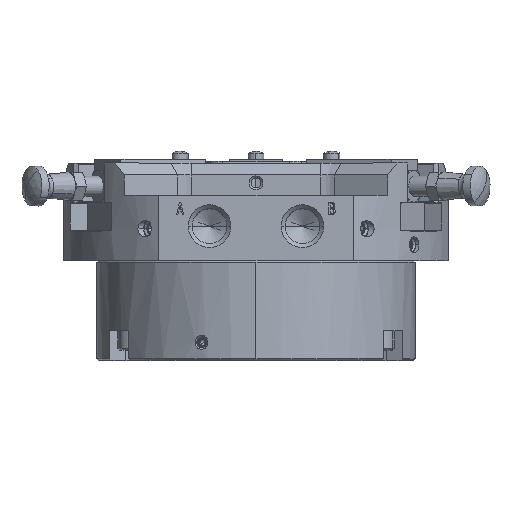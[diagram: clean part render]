
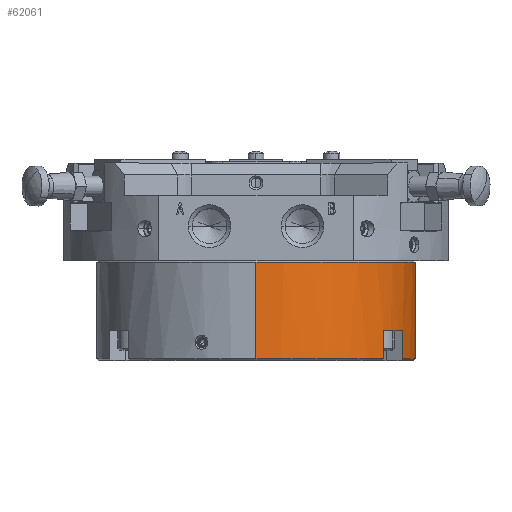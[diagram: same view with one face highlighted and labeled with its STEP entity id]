
A CAD part, top view. The second image highlights one B-rep face of the part: STEP entity #62061.
In plain terms, the highlighted cylindrical face has radius 40 mm (diameter 80 mm), a partial arc.
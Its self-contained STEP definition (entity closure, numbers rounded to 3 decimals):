
#302 = AXIS2_PLACEMENT_3D ( 'NONE', #60855, #26005, #15800 ) ;
#625 = VECTOR ( 'NONE', #32792, 1000. ) ;
#2660 = ORIENTED_EDGE ( 'NONE', *, *, #64115, .T. ) ;
#2887 = DIRECTION ( 'NONE',  ( 0., 1., 0. ) ) ;
#4422 = CIRCLE ( 'NONE', #46485, 40. ) ;
#5468 = DIRECTION ( 'NONE',  ( 0., 1., 0. ) ) ;
#6766 = DIRECTION ( 'NONE',  ( 0., 0., 1. ) ) ;
#7737 = CARTESIAN_POINT ( 'NONE',  ( 39.591, 0.4, -5.708 ) ) ;
#7756 = CARTESIAN_POINT ( 'NONE',  ( 32.021, 26.25, 23.972 ) ) ;
#7761 = ORIENTED_EDGE ( 'NONE', *, *, #36404, .F. ) ;
#8041 = CARTESIAN_POINT ( 'NONE',  ( 0., 0.4, 0. ) ) ;
#8586 = VERTEX_POINT ( 'NONE', #43333 ) ;
#8801 = LINE ( 'NONE', #63074, #63395 ) ;
#9479 = VERTEX_POINT ( 'NONE', #21690 ) ;
#9730 = CARTESIAN_POINT ( 'NONE',  ( 32.021, 7.5, 23.972 ) ) ;
#10861 = VERTEX_POINT ( 'NONE', #9730 ) ;
#12986 = ORIENTED_EDGE ( 'NONE', *, *, #52036, .T. ) ;
#13148 = EDGE_CURVE ( 'NONE', #34330, #18759, #4422, .T. ) ;
#15800 = DIRECTION ( 'NONE',  ( 0., 0., -1. ) ) ;
#15999 = CARTESIAN_POINT ( 'NONE',  ( 0., 26.25, 40. ) ) ;
#16231 = ORIENTED_EDGE ( 'NONE', *, *, #41671, .F. ) ;
#16328 = LINE ( 'NONE', #20610, #52465 ) ;
#17294 = DIRECTION ( 'NONE',  ( 0., 1., 0. ) ) ;
#18759 = VERTEX_POINT ( 'NONE', #49858 ) ;
#19153 = AXIS2_PLACEMENT_3D ( 'NONE', #50533, #5468, #6766 ) ;
#19317 = ORIENTED_EDGE ( 'NONE', *, *, #60700, .F. ) ;
#20610 = CARTESIAN_POINT ( 'NONE',  ( 36.771, 26.25, 15.745 ) ) ;
#21690 = CARTESIAN_POINT ( 'NONE',  ( 36.771, 7.5, 15.745 ) ) ;
#22017 = EDGE_CURVE ( 'NONE', #25349, #42898, #62058, .T. ) ;
#22953 = DIRECTION ( 'NONE',  ( 0., 1., 0. ) ) ;
#23144 = CARTESIAN_POINT ( 'NONE',  ( 36.771, 0.4, 15.745 ) ) ;
#25349 = VERTEX_POINT ( 'NONE', #23144 ) ;
#26005 = DIRECTION ( 'NONE',  ( 0., 1., 0. ) ) ;
#26533 = DIRECTION ( 'NONE',  ( 0., 0., 1. ) ) ;
#27503 = CARTESIAN_POINT ( 'NONE',  ( 0., 0.4, 0. ) ) ;
#28227 = EDGE_CURVE ( 'NONE', #10861, #18759, #53170, .T. ) ;
#31643 = AXIS2_PLACEMENT_3D ( 'NONE', #62779, #2887, #63733 ) ;
#32462 = VECTOR ( 'NONE', #62591, 1000. ) ;
#32792 = DIRECTION ( 'NONE',  ( 0., -1., 0. ) ) ;
#33353 = VERTEX_POINT ( 'NONE', #37960 ) ;
#33456 = CARTESIAN_POINT ( 'NONE',  ( 0., 0.4, 40. ) ) ;
#34330 = VERTEX_POINT ( 'NONE', #33456 ) ;
#36404 = EDGE_CURVE ( 'NONE', #33353, #8586, #45413, .T. ) ;
#37960 = CARTESIAN_POINT ( 'NONE',  ( 0., 24.6, 40. ) ) ;
#38115 = FACE_OUTER_BOUND ( 'NONE', #61475, .T. ) ;
#39037 = ORIENTED_EDGE ( 'NONE', *, *, #13148, .T. ) ;
#40677 = ORIENTED_EDGE ( 'NONE', *, *, #28227, .F. ) ;
#41671 = EDGE_CURVE ( 'NONE', #34330, #33353, #56452, .T. ) ;
#42898 = VERTEX_POINT ( 'NONE', #7737 ) ;
#43333 = CARTESIAN_POINT ( 'NONE',  ( 39.591, 24.6, -5.708 ) ) ;
#43676 = CYLINDRICAL_SURFACE ( 'NONE', #31643, 40. ) ;
#45413 = CIRCLE ( 'NONE', #19153, 40. ) ;
#46485 = AXIS2_PLACEMENT_3D ( 'NONE', #8041, #17294, #58382 ) ;
#47559 = DIRECTION ( 'NONE',  ( 0., 1., 0. ) ) ;
#49858 = CARTESIAN_POINT ( 'NONE',  ( 32.021, 0.4, 23.972 ) ) ;
#50533 = CARTESIAN_POINT ( 'NONE',  ( 0., 24.6, 0. ) ) ;
#52036 = EDGE_CURVE ( 'NONE', #42898, #8586, #8801, .T. ) ;
#52465 = VECTOR ( 'NONE', #55493, 1000. ) ;
#53170 = LINE ( 'NONE', #7756, #625 ) ;
#55493 = DIRECTION ( 'NONE',  ( 0., 1., 0. ) ) ;
#56452 = LINE ( 'NONE', #15999, #32462 ) ;
#57299 = ORIENTED_EDGE ( 'NONE', *, *, #22017, .T. ) ;
#58382 = DIRECTION ( 'NONE',  ( 0., 0., 1. ) ) ;
#60700 = EDGE_CURVE ( 'NONE', #25349, #9479, #16328, .T. ) ;
#60855 = CARTESIAN_POINT ( 'NONE',  ( 0., 7.5, 0. ) ) ;
#61040 = AXIS2_PLACEMENT_3D ( 'NONE', #27503, #47559, #26533 ) ;
#61475 = EDGE_LOOP ( 'NONE', ( #16231, #39037, #40677, #2660, #19317, #57299, #12986, #7761 ) ) ;
#62058 = CIRCLE ( 'NONE', #61040, 40. ) ;
#62061 = ADVANCED_FACE ( 'NONE', ( #38115 ), #43676, .T. ) ;
#62591 = DIRECTION ( 'NONE',  ( 0., 1., 0. ) ) ;
#62779 = CARTESIAN_POINT ( 'NONE',  ( 0., 26.25, 0. ) ) ;
#63074 = CARTESIAN_POINT ( 'NONE',  ( 39.591, 26.25, -5.708 ) ) ;
#63299 = CIRCLE ( 'NONE', #302, 40. ) ;
#63395 = VECTOR ( 'NONE', #22953, 1000. ) ;
#63733 = DIRECTION ( 'NONE',  ( 0., 0., 1. ) ) ;
#64115 = EDGE_CURVE ( 'NONE', #10861, #9479, #63299, .T. ) ;
